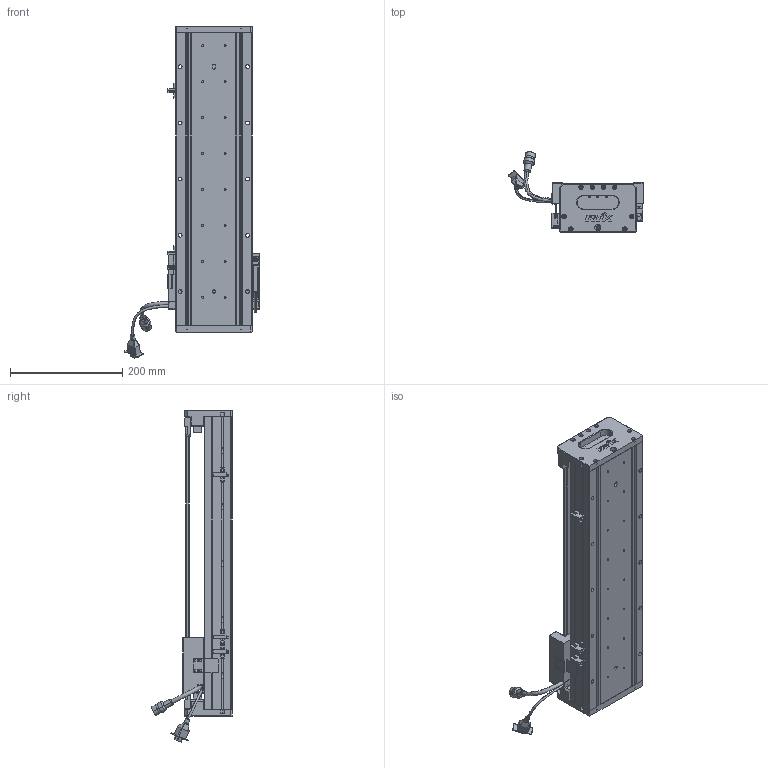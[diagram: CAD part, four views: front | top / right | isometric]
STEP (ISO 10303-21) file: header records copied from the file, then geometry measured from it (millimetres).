
FILE_DESCRIPTION (( 'STEP AP203' ), '1' );
FILE_NAME ('Z1-RY140D-1-L500-B-K.SLDASM_0350.step', '2021-05-17T07:30:27', ( '盈信电脑' ), ( '东莞市道滘镇水果街19号' ), 'SwSTEP 2.0', 'SolidWorks 2016', '' );
FILE_SCHEMA (( 'CONFIG_CONTROL_DESIGN' ));
Length unit declared in the file: millimetre
Products named in the file (36): COVER; PSLH080_PSLF2; HOLDER0; LABEL-Part-1; SCREW-M1.6-3; SCALE-Part-1; SEAL; 140-Z-臏賑輸盄裔(21遴); SCREW-M1.7; Z-RY140感应器672光电感应片; HARNESS; 140雄赽晤鎢ん堤盄; 榋妏寠巭燃_暯_M2_2; LABEL; SCREW-M1.6-2; Z1-RY140-L500直线电机模组底座_0350; SCALE-Part-2; HARNESS-Part-1; SCREW-M1.6-1; COVER-Part-1; SEAL-Part-1; Z1-RY140-L500詩湍100mm遵_0350; Z-RY140詩湍奻揤裔; PBU_SHEET; Z-RY140詩湍狟揤裔; Z1-RY140D-1-L500-B-K.SLDASM_0350; HARNESS-Part-2; 140蚥薯蝶輸; 080黍杅芛假蚾釱21遴; Z-140詩湍傷裔啣; Z1-RY140圉猾敕臏賑輸(21遴); SCREW-M1.6; 覜茼ん672; SCALE; SCREW-M1.7-1; SHIELDPLATE
Assembly tree (41 placements, depth 4):
  Z1-RY140D-1-L500-B-K.SLDASM_0350
    Z1-RY140-L500直线电机模组底座_0350
    Z-RY140感应器672光电感应片
    Z1-RY140圉猾敕臏賑輸(21遴)
    覜茼ん672  x3
    Z1-RY140-L500詩湍100mm遵_0350
    PSLH080_PSLF2
      SCALE
        SCALE-Part-1
        SCALE-Part-2
      HARNESS
        HARNESS-Part-1
        HARNESS-Part-2
      LABEL
        LABEL-Part-1
      COVER
        COVER-Part-1
      SEAL
        SEAL-Part-1
      榋妏寠巭燃_暯_M2_2
      SHIELDPLATE
      SCREW-M1.7
      SCREW-M1.7-1
      PBU_SHEET
      SCREW-M1.6
      SCREW-M1.6-1
      SCREW-M1.6-2
      SCREW-M1.6-3
      HOLDER0
    080黍杅芛假蚾釱21遴
    140-Z-臏賑輸盄裔(21遴)
    Z-140詩湍傷裔啣  x2
    Z-RY140詩湍狟揤裔  x2
    Z-RY140詩湍奻揤裔  x2
    140蚥薯蝶輸  x2
    140雄赽晤鎢ん堤盄
Bounding box: 239.84 x 143.88 x 590.88 mm (x, y, z)
Volume: 2273785.7 mm3; surface area: 615258.7 mm2
Topology: 36 solids, 36 shells, 2510 faces, 6524 edges, 4137 vertices
Faces by surface type: cylinder 1090, plane 1064, cone 234, torus 69, bspline 53
Entity records: 70500 total; most frequent: CARTESIAN_POINT 16823, DIRECTION 10452, ORIENTED_EDGE 10272, EDGE_CURVE 5136, AXIS2_PLACEMENT_3D 3798, VERTEX_POINT 3305, VECTOR 2856, LINE 2856
